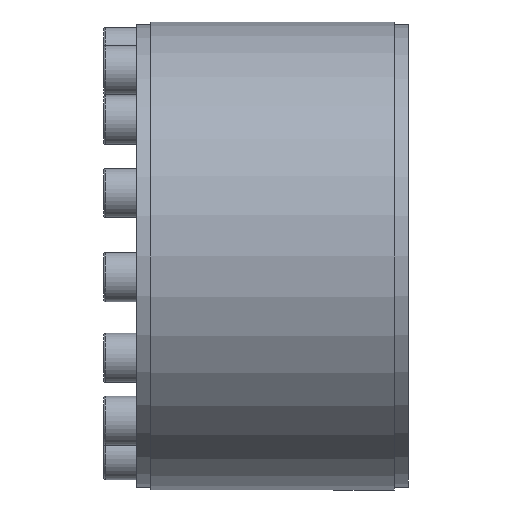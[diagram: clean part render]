
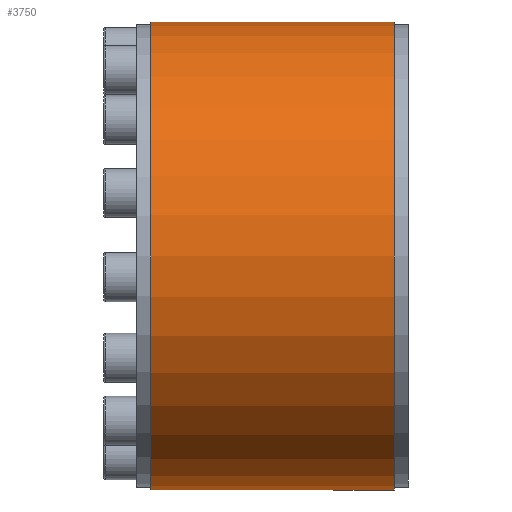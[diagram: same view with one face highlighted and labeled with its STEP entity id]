
A CAD part, left-side view. The second image highlights one B-rep face of the part: STEP entity #3750.
In plain terms, the highlighted cylindrical face has radius 100 mm (diameter 200 mm), a partial arc.
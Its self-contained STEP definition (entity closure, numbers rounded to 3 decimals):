
#112 = VERTEX_POINT ( 'NONE', #5258 ) ;
#221 = DIRECTION ( 'NONE',  ( 0., -1., 0. ) ) ;
#277 = EDGE_CURVE ( 'NONE', #4985, #2456, #1017, .T. ) ;
#280 = CARTESIAN_POINT ( 'NONE',  ( 0., 52., 100. ) ) ;
#744 = EDGE_LOOP ( 'NONE', ( #5291, #4591, #1762, #4109 ) ) ;
#814 = AXIS2_PLACEMENT_3D ( 'NONE', #2500, #5459, #3344 ) ;
#921 = CARTESIAN_POINT ( 'NONE',  ( 0., 0., 100. ) ) ;
#989 = EDGE_CURVE ( 'NONE', #3059, #112, #1411, .T. ) ;
#1017 = LINE ( 'NONE', #3229, #4168 ) ;
#1125 = EDGE_CURVE ( 'NONE', #3059, #4985, #5103, .T. ) ;
#1151 = DIRECTION ( 'NONE',  ( 0., 0., -1. ) ) ;
#1355 = DIRECTION ( 'NONE',  ( 0., -1., 0. ) ) ;
#1411 = LINE ( 'NONE', #921, #5036 ) ;
#1652 = CIRCLE ( 'NONE', #1928, 100. ) ;
#1762 = ORIENTED_EDGE ( 'NONE', *, *, #277, .T. ) ;
#1907 = CARTESIAN_POINT ( 'NONE',  ( 0., 52., 0. ) ) ;
#1928 = AXIS2_PLACEMENT_3D ( 'NONE', #3585, #4524, #1151 ) ;
#2091 = CYLINDRICAL_SURFACE ( 'NONE', #814, 100. ) ;
#2267 = CARTESIAN_POINT ( 'NONE',  ( 0., -52., -100. ) ) ;
#2456 = VERTEX_POINT ( 'NONE', #2267 ) ;
#2500 = CARTESIAN_POINT ( 'NONE',  ( 0., 0., 0. ) ) ;
#2703 = CARTESIAN_POINT ( 'NONE',  ( 0., 52., -100. ) ) ;
#3059 = VERTEX_POINT ( 'NONE', #280 ) ;
#3159 = DIRECTION ( 'NONE',  ( 0., 0., -1. ) ) ;
#3229 = CARTESIAN_POINT ( 'NONE',  ( 0., 0., -100. ) ) ;
#3286 = DIRECTION ( 'NONE',  ( 0., -1., 0. ) ) ;
#3344 = DIRECTION ( 'NONE',  ( 0., 0., -1. ) ) ;
#3585 = CARTESIAN_POINT ( 'NONE',  ( 0., -52., 0. ) ) ;
#3750 = ADVANCED_FACE ( 'NONE', ( #4059 ), #2091, .T. ) ;
#4059 = FACE_OUTER_BOUND ( 'NONE', #744, .T. ) ;
#4109 = ORIENTED_EDGE ( 'NONE', *, *, #4508, .F. ) ;
#4168 = VECTOR ( 'NONE', #3286, 1000. ) ;
#4508 = EDGE_CURVE ( 'NONE', #112, #2456, #1652, .T. ) ;
#4524 = DIRECTION ( 'NONE',  ( 0., -1., 0. ) ) ;
#4591 = ORIENTED_EDGE ( 'NONE', *, *, #1125, .T. ) ;
#4653 = AXIS2_PLACEMENT_3D ( 'NONE', #1907, #221, #3159 ) ;
#4985 = VERTEX_POINT ( 'NONE', #2703 ) ;
#5036 = VECTOR ( 'NONE', #1355, 1000. ) ;
#5103 = CIRCLE ( 'NONE', #4653, 100. ) ;
#5258 = CARTESIAN_POINT ( 'NONE',  ( 0., -52., 100. ) ) ;
#5291 = ORIENTED_EDGE ( 'NONE', *, *, #989, .F. ) ;
#5459 = DIRECTION ( 'NONE',  ( 0., -1., 0. ) ) ;
